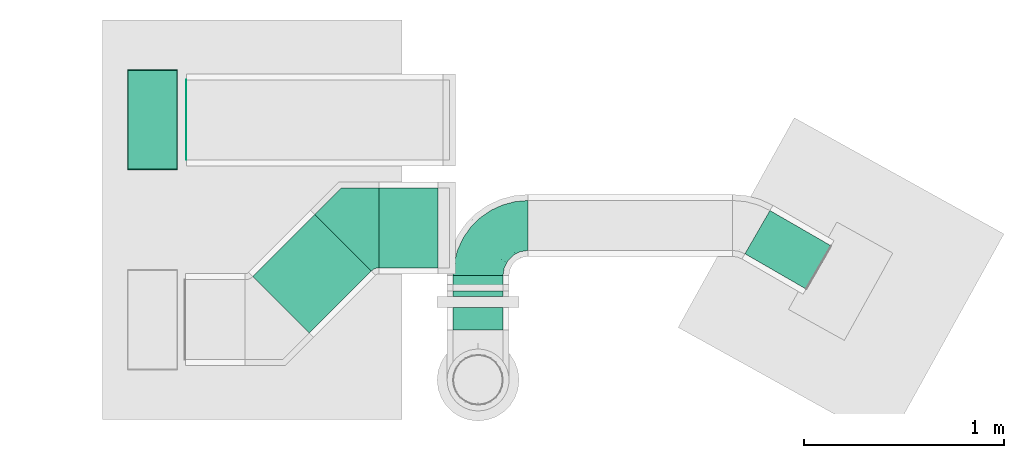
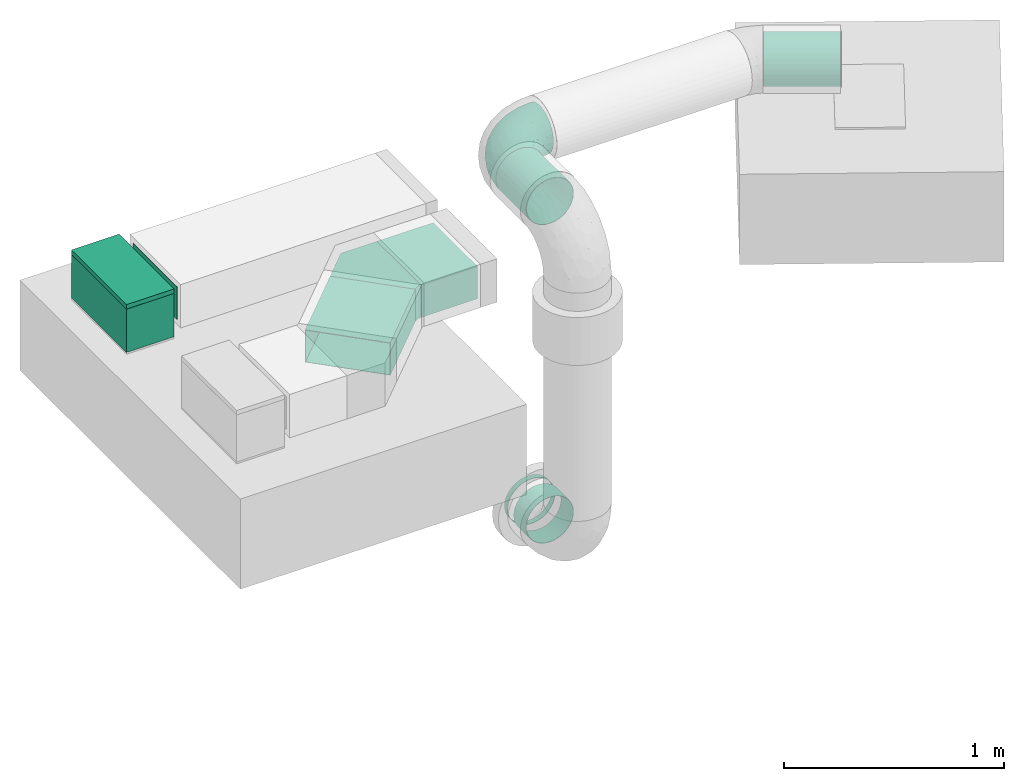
# One storey, part 5 of 9: 7 flow segments, 3 flow fittings, 1 flow terminal.
"""IFC2X3 building model written with IfcOpenShell, lengths in millimetres."""

from ifc_helpers import new_model, entity, si_unit, converted_unit, derived_unit, direction, frame, origin_with_axes, origin_2d_with_axis, place, context, subcontext, project, spatial, hollow_rectangle, hollow_circle, extrude, open_shell, surface_model, source, transform, mapped, type_object, element, save


model = new_model("IFC2X3")

# Units and contexts
model_context = context("Model", 3, precision=0.01, world=frame((0.0, 4.29681676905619e-09, 0.0)), true_north=direction((4.01073788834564e-13, 1.0)))
plan_context = context("Plan", 3, precision=0.01, world=frame((0.0, 4.29681676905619e-09, 0.0)), true_north=direction((4.01073788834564e-13, 1.0)))
body_context = subcontext(model_context, "Body", "Model", "MODEL_VIEW")
ifc_project = project(units=[converted_unit("PLANEANGLEUNIT", "DEGREE", entity("IfcPositiveLengthMeasure", 0.0174532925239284), si_unit("PLANEANGLEUNIT", "RADIAN"), dimensions=[0, 0, 0, 0, 0, 0, 0]), si_unit("AREAUNIT", "SQUARE_METRE"), si_unit("LENGTHUNIT", "METRE", prefix="MILLI"), si_unit("MASSUNIT", "GRAM", prefix="KILO"), si_unit("POWERUNIT", "WATT"), si_unit("PRESSUREUNIT", "PASCAL"), si_unit("FORCEUNIT", "NEWTON", prefix="KILO"), si_unit("ELECTRICVOLTAGEUNIT", "VOLT"), si_unit("ELECTRICCURRENTUNIT", "AMPERE"), si_unit("THERMODYNAMICTEMPERATUREUNIT", "DEGREE_CELSIUS"), si_unit("TIMEUNIT", "SECOND"), si_unit("VOLUMEUNIT", "CUBIC_METRE"), derived_unit("LINEARVELOCITYUNIT", [(si_unit("LENGTHUNIT", "METRE"), 1), (si_unit("TIMEUNIT", "SECOND"), -1)]), derived_unit("VOLUMETRICFLOWRATEUNIT", [(si_unit("VOLUMEUNIT", "CUBIC_METRE"), 1), (si_unit("TIMEUNIT", "SECOND"), -1)]), derived_unit("THERMALTRANSMITTANCEUNIT", [(si_unit("POWERUNIT", "WATT"), 1), (si_unit("THERMODYNAMICTEMPERATUREUNIT", "KELVIN"), -1), (si_unit("AREAUNIT", "SQUARE_METRE"), -1)]), derived_unit("SOUNDPRESSUREUNIT", [(si_unit("PRESSUREUNIT", "PASCAL"), 1)])], contexts=[model_context, plan_context])

# Site, building, storey
site_placement = place(None, frame((0.0, -4.29681676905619e-09, 0.0), z_axis=(0.0, 0.0, 1.0), x_axis=(1.0, 0.0, 0.0)))
site = spatial("IfcSite", under=ifc_project, at=site_placement, CompositionType="ELEMENT")
building_placement = place(site_placement, frame((0.0, 4.29681676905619e-09, 0.0), z_axis=(0.0, 0.0, 1.0), x_axis=(1.0, 0.0, 0.0)))
building = spatial("IfcBuilding", under=site, at=building_placement, Name="mc-building", CompositionType="ELEMENT")
storey_placement = place(building_placement, frame((0.0, 0.0, 210200.0), z_axis=(0.0, 0.0, 1.0), x_axis=(1.0, 0.0, 0.0)))
storey = spatial("IfcBuildingStorey", under=building, at=storey_placement, Name="Nivå F -0,7m", CompositionType="ELEMENT", Elevation=210200.0)

# Flow fittings
duct_fitting_type_1 = type_object("IfcDuctFittingType", Name="magicirc_elbow_full_radius_001", PredefinedType="BEND")
shared_shape_1 = source(origin_with_axes(), body_context, "Body", "SurfaceModel", [
    surface_model("IfcShellBasedSurfaceModel", [(-250.0, 0.0, -125.0), (-250.0, -88.38835, -88.38835), (-250.0, 32.35238, -120.74073), (-250.0, 62.5, -108.25318), (-250.0, 88.38835, -88.38835), (-250.0, 120.74073, -32.35238), (-250.0, 108.25318, -62.5), (-250.0, -62.5, -108.25318), (-250.0, -32.35238, -120.74073), (-250.0, -108.25318, -62.5), (-250.0, -120.74073, -32.35238), (-250.0, -125.0, 0.0), (-250.0, -88.38835, 88.38835), (-250.0, 120.74073, 32.35238), (-250.0, -62.5, 108.25318), (-250.0, 108.25318, 62.5), (-250.0, 62.5, 108.25318), (-250.0, 88.38835, 88.38835), (-250.0, 32.35238, 120.74073), (-250.0, -108.25318, 62.5), (-250.0, -120.74073, 32.35238), (-250.0, -32.35238, 120.74073), (-250.0, 0.0, 125.0), (-250.0, 125.0, 0.0), (-32.35238, 250.0, -120.74073), (88.38835, 250.0, -88.38835), (0.0, 250.0, -125.0), (-88.38835, 250.0, -88.38835), (-62.5, 250.0, -108.25318), (-108.25318, 250.0, -62.5), (-120.74073, 250.0, -32.35238), (32.35238, 250.0, -120.74073), (62.5, 250.0, -108.25318), (120.74073, 250.0, -32.35238), (108.25318, 250.0, -62.5), (125.0, 250.0, 0.0), (88.38835, 250.0, 88.38835), (62.5, 250.0, 108.25318), (-120.74073, 250.0, 32.35238), (-108.25318, 250.0, 62.5), (-62.5, 250.0, 108.25318), (-88.38835, 250.0, 88.38835), (-32.35238, 250.0, 120.74073), (120.74073, 250.0, 32.35238), (108.25318, 250.0, 62.5), (0.0, 250.0, 125.0), (32.35238, 250.0, 120.74073), (-125.0, 250.0, 0.0), (-210.86951, 73.07385, 104.36376), (-184.88194, -119.30291, 0.0), (-195.25827, -115.02308, 37.93413), (-218.90842, -122.27984, 0.0), (53.79635, 43.6295, 43.29829), (28.71982, 26.00799, 63.66662), (24.95926, 3.36677, 37.10772), (-143.32142, -83.48741, 74.82033), (-148.43956, -66.68827, 93.84246), (-193.81021, -79.4231, 92.40443), (-215.01547, -101.28826, 70.7859), (-170.24804, -98.61932, 63.57524), (15.48822, 139.1377, 119.17758), (51.95219, 181.65541, 109.88177), (21.43204, 199.18477, 122.23461), (-92.12122, -88.57213, 0.0), (-62.5, -74.75953, 0.0), (-102.19713, -88.25159, 37.84333), (114.99061, 194.89886, 37.86695), (105.10704, 146.7157, 35.60305), (110.84382, 153.31219, 0.0), (-35.72732, -56.0131, 0.0), (-19.33443, -42.66525, 24.1819), (-49.61048, -64.84865, 21.07887), (-134.49668, -18.50083, 117.62872), (-140.3114, 18.31287, 124.83908), (-163.87891, -5.14412, 123.50312), (-19.95522, 81.94859, 120.03225), (-25.80872, 122.13882, 124.73796), (-52.10962, 92.30678, 124.9631), (-31.05983, -5.99293, 89.90144), (-41.72797, 23.84412, 111.01725), (-81.01653, -19.40599, 104.87443), (-106.83954, -79.59981, 60.56422), (-146.98015, -105.1079, 35.84762), (-71.29451, -72.63164, 38.82328), (-73.06126, 220.06184, 103.19018), (-98.79093, 205.2116, 84.29848), (-75.91528, 182.06995, 107.88634), (-199.69686, 99.57099, 85.2884), (-203.49675, 11.2922, 124.81465), (-116.53306, 171.44239, 81.08815), (-111.87993, 90.36566, 118.79078), (-104.67411, 138.16705, 105.76412), (-145.96795, 109.49288, 99.87096), (-196.30432, -21.44057, 122.11502), (-215.51315, -51.86659, 112.81539), (-204.26429, 116.15735, 61.96761), (-171.07855, 119.2179, 78.533), (-181.86003, 134.49131, 46.84392), (-214.14919, 125.14691, 34.6495), (-134.49131, 181.86003, 46.84392), (-159.17408, 159.17408, 29.15352), (-152.46395, 152.46395, 55.37908), (-211.37287, 131.11793, 0.0), (-188.77781, 138.76885, 22.08599), (-176.52685, 148.87287, 0.0), (-90.84545, 14.70792, 120.26896), (-165.92299, 79.38605, 109.77065), (-194.42694, 43.85537, 119.55352), (38.35285, 111.1449, 103.53188), (67.56111, 151.47747, 93.91415), (101.2929, 214.32433, 70.67839), (-11.88244, 26.84905, 98.98258), (69.59743, 58.34132, 24.07272), (88.25159, 102.19715, 37.84335), (71.67798, 75.77581, 46.99643), (-84.05365, 84.19131, 124.04603), (-74.05474, 58.59216, 124.60033), (122.27984, 218.90842, 0.0), (-11.46722, -27.90939, 45.97099), (2.8419, -2.84189, 63.66452), (-36.75436, -35.39096, 65.83052), (79.49517, 196.80314, 92.78444), (59.14009, 215.57843, 109.07718), (-43.54002, 203.9777, 118.93211), (-3.74505, 217.94309, 124.98888), (47.42619, 250.0, 114.49695), (-11.6252, 186.58509, 124.95553), (-37.69004, 161.1507, 123.41409), (-148.87287, 176.52685, 0.0), (-138.76885, 188.77781, 22.08599), (-131.11793, 211.37287, 0.0), (-125.14691, 214.14919, 34.6495), (-84.38488, 127.39299, 117.02266), (-59.20815, 123.25028, 123.23304), (-63.59847, 155.77939, 118.03647), (56.0131, 35.72732, 0.0), (48.70082, 26.28379, 21.1922), (-116.19732, 204.24725, 61.91096), (9.4067, 98.99033, 114.49463), (79.67349, 106.95659, 60.52634), (-16.17619, 250.0, 122.87036), (82.93177, 142.04467, 75.00397), (-143.56269, 53.49001, 122.15523), (102.38473, 121.74244, 0.0), (88.57213, 92.12122, 0.0), (44.74763, 58.49273, 72.95926), (18.11496, 55.96411, 95.23773), (9.69309, 23.39724, 81.63831), (-67.51915, -39.60495, 84.29377), (98.46572, 169.05992, 63.37638), (-170.8102, -51.18183, 108.87038), (-153.31219, -110.84382, 0.0), (-123.62588, -42.04646, 104.74517), (-73.23164, -60.48705, 64.15546), (-139.54816, 139.54816, 82.62583), (-108.1391, 55.1991, 124.67421), (-60.03995, 38.39208, 120.18375), (65.18219, 107.64577, 80.24903), (43.4165, 83.93892, 89.61045), (-4.9115, 60.75686, 109.8509), (-110.21718, -65.96071, 80.65176), (-43.62951, -53.79636, 43.29829), (37.26667, 8.95465, 0.0), (14.15601, -14.15601, 0.0), (-8.95465, -37.26667, 0.0), (-121.74244, -102.38473, 0.0), (74.75953, 62.5, 0.0), (119.30291, 184.88194, 0.0), (-48.82206, -1.60827, -102.07682), (-81.15095, 5.22067, -115.678), (-46.7578, 29.40312, -114.58593), (-204.53459, 115.51747, -62.86787), (-214.14919, 125.14691, -34.6495), (-181.86003, 134.49131, -46.84392), (-14.61222, -31.35351, -44.43883), (11.84236, -11.84236, -33.95092), (-22.4719, -45.07054, -24.34392), (-223.1891, 97.50172, -81.04959), (-204.40195, 73.34241, -105.17442), (-205.98338, 43.52544, -118.79771), (-115.51747, 204.53457, -62.86787), (-123.49723, 170.45377, -74.23949), (-134.49131, 181.86003, -46.84392), (-183.06045, -52.02369, -110.01015), (-110.47452, -37.60202, -103.79083), (-151.64326, -67.35, -94.13381), (-188.77781, 138.76885, -22.08599), (-114.75143, 65.55471, -123.1751), (-107.82895, 32.74573, -124.62786), (-148.44163, 51.08373, -122.1244), (-159.17408, 159.17408, -29.15352), (-138.76885, 188.77781, -22.08599), (-119.19358, 124.76558, -104.29075), (-156.37688, 113.94777, -91.79313), (-139.54817, 139.54815, -82.62583), (-17.8555, 5.83155, -89.841), (-53.98544, -29.45541, -85.32833), (52.02369, 183.06045, -110.01015), (-194.89886, -114.99061, -37.86695), (68.13995, 56.13213, -24.5986), (53.12789, 44.54335, -46.08326), (71.63973, 76.43802, -47.84654), (-218.9084, -122.27984, 0.0), (-142.39083, -82.85696, -75.24042), (-197.12937, -79.50134, -92.82571), (-214.32433, -101.2929, -70.67839), (-187.89553, 11.55914, -124.94803), (-76.28398, -71.66476, -47.61611), (-102.35833, -88.16959, -38.28022), (-107.64683, -79.80589, -60.8013), (-55.74247, -67.93132, -24.47435), (-73.34242, 204.40195, -105.17441), (-199.49861, -21.42932, -122.24748), (-107.64576, -65.1822, -80.24902), (-0.34225, 0.34224, -70.72271), (29.30666, 54.05255, -85.49962), (16.15015, 142.42885, -119.37772), (43.11376, 128.52401, -105.34342), (14.39958, 85.87454, -108.99442), (-152.46395, 152.46393, -55.37908), (-125.14691, 214.14919, -34.6495), (-83.7122, 64.8786, -124.99462), (-54.88917, 96.03345, -124.99152), (-55.00537, 55.00536, -122.31604), (114.99061, 194.89886, -37.86695), (-97.50172, 223.1891, -81.04959), (-101.67989, 188.66846, -87.26306), (21.42932, 199.49861, -122.24748), (-11.55914, 187.89551, -124.94803), (-17.77846, 99.36444, -122.09337), (-43.52544, 205.98336, -118.79771), (-142.42885, -16.15015, -119.37772), (79.50134, 197.12936, -92.82571), (-188.66846, 101.67988, -87.26306), (-170.17192, 125.74792, -71.81093), (45.368, 22.81369, -24.20694), (101.2929, 214.32433, -70.67839), (105.10171, 146.67975, -35.58648), (88.16959, 102.35833, -38.28022), (79.96492, 108.09127, -60.85482), (-146.67975, -105.10171, -35.58648), (122.27984, 218.9084, 0.0), (98.46572, 169.0599, -63.37638), (-144.66282, 11.20212, -124.51517), (-87.43442, 152.97293, -109.2834), (67.3894, 152.70136, -94.37252), (-152.97295, 87.4344, -109.2834), (-102.45394, 113.88071, -114.88639), (-64.92037, 173.4251, -114.6928), (-51.08373, 148.44162, -122.1244), (-30.24824, 128.8738, -124.99659), (30.47164, 29.3995, -64.89969), (53.45139, 66.81998, -68.66115), (65.18219, 107.64576, -80.24903), (82.78793, 142.70732, -75.45609), (-67.10765, -53.67876, -68.59085), (-44.54336, -53.12789, -46.08326), (-169.05992, -98.46572, -63.37638), (-77.48047, 126.65809, -119.10822), (-111.62197, 155.40485, -94.01416), (-173.42512, 64.92037, -114.69279), (-93.45156, 93.45155, -121.68252), (31.52201, 14.63788, -44.14115), (-75.97227, -25.0209, -99.65574), (-18.30454, 63.16594, -115.56557), (-16.44961, 32.13712, -103.97124), (-29.64558, -30.50919, -65.101)], [open_shell([[[0, 1, 2]], [[3, 2, 4]], [[5, 6, 4]], [[1, 4, 2]], [[4, 1, 5]], [[7, 1, 8]], [[1, 0, 8]], [[9, 10, 1]], [[11, 1, 10]], [[11, 12, 1]], [[13, 5, 1]], [[1, 14, 13]], [[13, 14, 15]], [[16, 15, 14]], [[17, 15, 16]], [[16, 14, 18]], [[19, 12, 20]], [[20, 12, 11]], [[21, 22, 14]], [[12, 14, 1]], [[14, 22, 18]], [[23, 5, 13]], [[24, 25, 26]], [[27, 24, 28]], [[27, 29, 30]], [[24, 27, 25]], [[30, 25, 27]], [[31, 25, 32]], [[31, 26, 25]], [[25, 33, 34]], [[33, 25, 35]], [[25, 36, 35]], [[25, 30, 37]], [[30, 38, 37]], [[39, 37, 38]], [[37, 39, 40]], [[40, 39, 41]], [[42, 37, 40]], [[43, 36, 44]], [[35, 36, 43]], [[37, 45, 46]], [[25, 37, 36]], [[42, 45, 37]], [[30, 47, 38]], [[17, 16, 48]], [[49, 50, 51]], [[52, 53, 54]], [[55, 56, 57]], [[58, 50, 59]], [[60, 61, 62]], [[63, 64, 65]], [[66, 67, 68]], [[69, 70, 71]], [[72, 73, 74]], [[75, 76, 77]], [[12, 57, 14]], [[78, 79, 80]], [[81, 82, 65]], [[64, 83, 65]], [[84, 85, 86]], [[12, 19, 58]], [[12, 58, 57]], [[17, 48, 87]], [[22, 88, 18]], [[86, 85, 89]], [[90, 91, 92]], [[93, 21, 94]], [[95, 96, 97]], [[85, 41, 39]], [[15, 17, 87]], [[21, 93, 22]], [[23, 13, 98]], [[99, 100, 101]], [[91, 86, 89]], [[102, 103, 104]], [[80, 79, 105]], [[106, 48, 107]], [[107, 16, 18]], [[14, 94, 21]], [[61, 108, 109]], [[36, 110, 44]], [[79, 78, 111]], [[112, 113, 114]], [[84, 40, 41]], [[44, 66, 43]], [[115, 116, 77]], [[45, 62, 46]], [[66, 117, 43]], [[118, 119, 120]], [[37, 121, 36]], [[121, 37, 122]], [[123, 124, 42]], [[98, 97, 103]], [[66, 44, 110]], [[15, 87, 95]], [[122, 37, 125]], [[126, 127, 76]], [[128, 129, 130]], [[129, 131, 130]], [[128, 104, 100]], [[130, 131, 47]], [[132, 133, 134]], [[42, 40, 123]], [[99, 129, 100]], [[135, 112, 136]], [[126, 123, 127]], [[137, 38, 131]], [[138, 60, 76]], [[19, 20, 50]], [[101, 100, 97]], [[114, 113, 139]], [[124, 45, 140]], [[46, 62, 122]], [[103, 100, 104]], [[92, 96, 87]], [[119, 118, 54]], [[98, 95, 97]], [[141, 121, 109]], [[88, 22, 93]], [[142, 107, 73]], [[143, 113, 144]], [[145, 146, 147]], [[78, 148, 120]], [[81, 65, 83]], [[39, 38, 137]], [[85, 137, 89]], [[139, 67, 149]], [[121, 110, 36]], [[72, 93, 150]], [[88, 73, 107]], [[55, 59, 81]], [[94, 57, 150]], [[50, 20, 51]], [[50, 151, 82]], [[62, 45, 124]], [[60, 62, 126]], [[109, 121, 61]], [[110, 121, 149]], [[84, 123, 40]], [[127, 134, 133]], [[152, 72, 150]], [[105, 73, 72]], [[149, 67, 66]], [[149, 141, 139]], [[153, 81, 83]], [[82, 59, 50]], [[88, 93, 74]], [[107, 18, 88]], [[100, 129, 128]], [[131, 129, 99]], [[131, 99, 137]], [[131, 38, 47]], [[99, 101, 89]], [[39, 137, 85]], [[99, 89, 137]], [[89, 154, 91]], [[92, 154, 96]], [[91, 132, 134]], [[102, 23, 98]], [[100, 103, 97]], [[102, 98, 103]], [[95, 13, 15]], [[95, 98, 13]], [[96, 95, 87]], [[92, 87, 106]], [[96, 154, 101]], [[90, 92, 106]], [[91, 154, 92]], [[107, 142, 106]], [[105, 116, 155]], [[115, 155, 116]], [[116, 156, 75]], [[107, 48, 16]], [[87, 48, 106]], [[80, 105, 72]], [[156, 105, 79]], [[152, 150, 56]], [[148, 78, 80]], [[152, 148, 80]], [[145, 157, 158]], [[146, 111, 147]], [[108, 157, 109]], [[79, 111, 159]], [[76, 127, 133]], [[96, 101, 97]], [[89, 101, 154]], [[73, 105, 155]], [[90, 106, 142]], [[160, 153, 148]], [[148, 153, 120]], [[153, 160, 81]], [[120, 153, 161]], [[118, 120, 161]], [[78, 120, 119]], [[161, 70, 118]], [[162, 136, 54]], [[163, 70, 164]], [[70, 163, 54]], [[71, 70, 161]], [[151, 50, 49]], [[83, 71, 161]], [[69, 164, 70]], [[153, 83, 161]], [[65, 165, 63]], [[55, 81, 160]], [[82, 81, 59]], [[56, 55, 160]], [[57, 59, 55]], [[160, 148, 152]], [[57, 56, 150]], [[160, 152, 56]], [[80, 72, 152]], [[71, 64, 69]], [[134, 123, 86]], [[77, 76, 133]], [[138, 76, 75]], [[126, 76, 60]], [[123, 134, 127]], [[91, 134, 86]], [[91, 90, 132]], [[115, 132, 90]], [[133, 132, 115]], [[75, 77, 116]], [[133, 115, 77]], [[155, 90, 142]], [[90, 155, 115]], [[73, 155, 142]], [[108, 61, 60]], [[141, 109, 157]], [[138, 75, 159]], [[158, 146, 145]], [[139, 141, 157]], [[121, 141, 149]], [[145, 114, 139]], [[139, 113, 67]], [[145, 139, 157]], [[112, 114, 52]], [[136, 112, 52]], [[166, 144, 112]], [[54, 136, 52]], [[135, 166, 112]], [[136, 162, 135]], [[67, 143, 68]], [[65, 82, 165]], [[112, 144, 113]], [[68, 167, 66]], [[85, 84, 41]], [[123, 84, 86]], [[20, 11, 51]], [[117, 66, 167]], [[117, 35, 43]], [[66, 110, 149]], [[57, 94, 14]], [[93, 94, 150]], [[50, 58, 19]], [[57, 58, 59]], [[122, 62, 61]], [[46, 122, 125]], [[121, 122, 61]], [[124, 123, 126]], [[42, 124, 140]], [[62, 124, 126]], [[88, 74, 73]], [[93, 72, 74]], [[113, 143, 67]], [[64, 71, 83]], [[75, 156, 79]], [[116, 105, 156]], [[147, 78, 119]], [[159, 111, 146]], [[138, 146, 108]], [[79, 159, 75]], [[78, 147, 111]], [[147, 53, 145]], [[53, 147, 119]], [[114, 145, 52]], [[146, 138, 159]], [[108, 60, 138]], [[54, 53, 119]], [[52, 145, 53]], [[54, 118, 70]], [[163, 162, 54]], [[151, 165, 82]], [[157, 108, 158]], [[146, 158, 108]], [[168, 169, 170]], [[171, 172, 173]], [[174, 175, 176]], [[4, 177, 178]], [[179, 2, 3]], [[180, 181, 182]], [[102, 172, 23]], [[183, 184, 185]], [[104, 186, 102]], [[187, 188, 189]], [[190, 128, 191]], [[171, 5, 172]], [[192, 193, 194]], [[168, 195, 196]], [[197, 31, 32]], [[4, 6, 177]], [[198, 10, 9]], [[199, 200, 201]], [[198, 202, 10]], [[203, 204, 185]], [[205, 198, 9]], [[179, 3, 178]], [[7, 183, 204]], [[4, 178, 3]], [[206, 0, 2]], [[186, 172, 102]], [[207, 208, 209]], [[205, 9, 1]], [[210, 208, 207]], [[211, 27, 28]], [[212, 0, 206]], [[1, 7, 204]], [[213, 185, 184]], [[214, 195, 215]], [[128, 190, 104]], [[216, 217, 218]], [[173, 190, 219]], [[176, 69, 210]], [[30, 220, 47]], [[221, 222, 223]], [[34, 33, 224]], [[220, 180, 182]], [[29, 27, 225]], [[226, 225, 211]], [[26, 227, 228]], [[228, 24, 26]], [[0, 212, 8]], [[31, 227, 26]], [[216, 218, 229]], [[211, 28, 230]], [[8, 183, 7]], [[212, 231, 183]], [[232, 197, 32]], [[233, 171, 234]], [[235, 200, 199]], [[175, 164, 176]], [[199, 144, 166]], [[169, 188, 223]], [[236, 25, 34]], [[228, 227, 216]], [[237, 238, 239]], [[198, 240, 151]], [[241, 167, 224]], [[236, 224, 242]], [[243, 189, 188]], [[220, 182, 191]], [[244, 226, 211]], [[197, 245, 217]], [[226, 181, 180]], [[246, 192, 247]], [[248, 230, 249]], [[130, 191, 128]], [[32, 25, 232]], [[250, 216, 229]], [[219, 190, 182]], [[186, 190, 173]], [[251, 215, 252]], [[253, 254, 239]], [[165, 208, 63]], [[207, 255, 256]], [[209, 240, 257]], [[33, 35, 241]], [[224, 33, 241]], [[224, 68, 237]], [[28, 24, 230]], [[244, 211, 248]], [[246, 178, 233]], [[179, 189, 206]], [[244, 248, 258]], [[244, 192, 259]], [[222, 229, 223]], [[189, 260, 246]], [[193, 233, 234]], [[187, 246, 261]], [[231, 212, 206]], [[183, 8, 212]], [[185, 204, 183]], [[205, 204, 257]], [[31, 197, 227]], [[216, 227, 197]], [[236, 232, 25]], [[245, 254, 253]], [[252, 239, 201]], [[237, 242, 224]], [[257, 240, 198]], [[257, 203, 209]], [[24, 228, 230]], [[249, 230, 228]], [[179, 178, 260]], [[206, 2, 179]], [[190, 186, 104]], [[172, 186, 173]], [[234, 171, 173]], [[172, 5, 23]], [[177, 171, 233]], [[5, 171, 6]], [[130, 47, 220]], [[190, 191, 182]], [[130, 220, 191]], [[180, 30, 29]], [[30, 180, 220]], [[225, 180, 29]], [[210, 69, 64]], [[214, 251, 262]], [[219, 234, 173]], [[234, 194, 193]], [[259, 194, 181]], [[246, 233, 193]], [[244, 258, 247]], [[246, 193, 192]], [[259, 181, 226]], [[181, 194, 219]], [[244, 259, 226]], [[194, 259, 192]], [[181, 219, 182]], [[234, 219, 194]], [[184, 183, 231]], [[203, 185, 213]], [[169, 184, 231]], [[213, 184, 263]], [[231, 206, 243]], [[169, 223, 170]], [[264, 218, 265]], [[217, 215, 218]], [[169, 168, 263]], [[196, 266, 255]], [[243, 169, 231]], [[221, 187, 261]], [[209, 203, 213]], [[204, 203, 257]], [[196, 195, 266]], [[209, 208, 240]], [[255, 209, 213]], [[210, 207, 256]], [[209, 255, 207]], [[213, 196, 255]], [[210, 256, 176]], [[64, 63, 210]], [[174, 214, 175]], [[256, 255, 266]], [[174, 176, 256]], [[175, 162, 163]], [[256, 266, 174]], [[214, 174, 266]], [[176, 164, 69]], [[218, 215, 265]], [[252, 201, 200]], [[265, 170, 264]], [[216, 197, 217]], [[188, 221, 223]], [[229, 222, 250]], [[258, 222, 261]], [[250, 222, 249]], [[245, 197, 232]], [[215, 217, 253]], [[254, 232, 242]], [[253, 217, 245]], [[232, 254, 245]], [[242, 237, 239]], [[242, 239, 254]], [[201, 239, 238]], [[238, 143, 144]], [[251, 252, 200]], [[215, 253, 252]], [[239, 252, 253]], [[238, 199, 201]], [[199, 135, 235]], [[262, 200, 235]], [[215, 251, 214]], [[264, 223, 229]], [[262, 235, 175]], [[214, 262, 175]], [[251, 200, 262]], [[135, 199, 166]], [[135, 162, 235]], [[261, 222, 221]], [[188, 187, 221]], [[246, 187, 189]], [[249, 228, 250]], [[216, 250, 228]], [[240, 165, 151]], [[238, 237, 143]], [[210, 63, 208]], [[151, 49, 198]], [[202, 198, 49]], [[202, 11, 10]], [[204, 205, 1]], [[198, 205, 257]], [[224, 236, 34]], [[232, 236, 242]], [[211, 225, 27]], [[180, 225, 226]], [[171, 177, 6]], [[178, 177, 233]], [[230, 248, 211]], [[258, 248, 249]], [[222, 258, 249]], [[247, 258, 261]], [[246, 247, 261]], [[244, 247, 192]], [[179, 260, 189]], [[178, 246, 260]], [[144, 199, 238]], [[208, 165, 240]], [[162, 175, 235]], [[163, 164, 175]], [[168, 170, 265]], [[195, 168, 265]], [[168, 196, 263]], [[223, 264, 170]], [[218, 264, 229]], [[215, 195, 265]], [[195, 214, 266]], [[189, 243, 206]], [[169, 243, 188]], [[68, 224, 167]], [[68, 143, 237]], [[213, 263, 196]], [[169, 263, 184]]])]),
])
flow_fitting_1_placement = place(storey_placement, frame((524180.93348, 456435.47356, 3920.0), z_axis=(0.0, 0.0, 1.0), x_axis=(-1.0, 0.0, 0.0)))
element("IfcFlowFitting", 1, at=flow_fitting_1_placement, inside=storey, type_object=duct_fitting_type_1, Name="magicirc_elbow_full_radius_001", context=body_context, shape_type="MappedRepresentation", body=[
    mapped(shared_shape_1, transform((0.0, 0.0, 0.0), scale=1.0)),
])
duct_fitting_type_2 = type_object("IfcDuctFittingType", Name="magirect_plug1_001", PredefinedType="OBSTRUCTION")
shared_shape_2 = source(origin_with_axes(), body_context, "Body", "SurfaceModel", [
    surface_model("IfcShellBasedSurfaceModel", [(0.0, 250.0, 125.0), (0.0, 250.0, -125.0), (0.0, -250.0, -125.0), (0.0, -250.0, 125.0), (25.0, -250.0, -125.0), (25.0, 250.0, -125.0), (25.0, 250.0, 125.0), (25.0, -250.0, 125.0)], [open_shell([[[0, 1, 2]], [[2, 3, 0]], [[4, 5, 6]], [[6, 7, 4]], [[1, 0, 5]], [[6, 5, 0]], [[2, 1, 5]], [[5, 4, 2]], [[3, 2, 7]], [[4, 7, 2]], [[0, 3, 6]], [[7, 6, 3]]])]),
])
flow_fitting_2_placement = place(storey_placement, frame((522551.03369, 456964.29801, 3449.51542000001), z_axis=(-1.0, 0.0, 0.0), x_axis=(0.0, 0.0, 1.0)))
element("IfcFlowFitting", 2, at=flow_fitting_2_placement, inside=storey, type_object=duct_fitting_type_2, Name="magirect_plug1_001", context=body_context, shape_type="MappedRepresentation", body=[
    mapped(shared_shape_2, transform((0.0, 0.0, 0.0), scale=1.0)),
])
duct_fitting_type_3 = type_object("IfcDuctFittingType", Name="WA", PredefinedType="BEND")
shared_shape_3 = source(origin_with_axes(), body_context, "Body", "SurfaceModel", [
    surface_model("IfcShellBasedSurfaceModel", [(-68.19805, 214.64466, 90.0), (-78.55339, 206.69874, 90.0), (214.64466, -68.19805, 90.0), (-67.13739, 215.70533, 90.0), (-90.61244, 201.70371, 90.0), (82.84271, -200.0, 90.0), (-105.05339, -200.0, 90.0), (-103.55339, 200.0, 90.0), (-105.05339, 200.0, 90.0), (215.70533, -67.13739, 90.0), (82.84271, -200.0, -90.0), (-105.05339, -200.0, -90.0), (-90.61244, 201.70371, -90.0), (-103.55339, 200.0, -90.0), (-105.05339, 200.0, -90.0), (-78.55339, 206.69874, -90.0), (214.64466, -68.19805, -90.0), (-67.13739, 215.70533, -90.0), (215.70533, -67.13739, -90.0), (-68.19805, 214.64466, -90.0)], [open_shell([[[0, 1, 2]], [[3, 0, 2]], [[4, 5, 1]], [[6, 5, 4]], [[6, 7, 8]], [[9, 3, 2]], [[2, 1, 5]], [[7, 6, 4]], [[10, 11, 12]], [[13, 11, 14]], [[15, 16, 10]], [[17, 18, 16]], [[13, 12, 11]], [[19, 17, 16]], [[15, 19, 16]], [[12, 15, 10]], [[15, 1, 0]], [[0, 19, 15]], [[15, 12, 1]], [[13, 7, 4]], [[4, 12, 13]], [[1, 12, 4]], [[8, 7, 13]], [[13, 14, 8]], [[6, 8, 14]], [[14, 11, 6]], [[5, 6, 11]], [[11, 10, 5]], [[2, 5, 16]], [[10, 16, 5]], [[9, 2, 18]], [[16, 18, 2]], [[3, 9, 18]], [[18, 17, 3]], [[0, 3, 19]], [[17, 19, 3]]])]),
])
flow_fitting_3_placement = place(storey_placement, frame((523579.42104, 456423.18324, 3350.0), z_axis=(0.0, 0.0, 1.0), x_axis=(-1.0, 0.0, 0.0)))
element("IfcFlowFitting", 3, at=flow_fitting_3_placement, inside=storey, type_object=duct_fitting_type_3, Name="WA", context=body_context, shape_type="MappedRepresentation", body=[
    mapped(shared_shape_3, transform((0.0, 0.0, 0.0), scale=1.0)),
])

# Flow segments
duct_segment_type_1 = type_object("IfcDuctSegmentType", Name="Rectangular duct", PredefinedType="RIGIDSEGMENT")
shared_shape_4 = source(origin_with_axes(), body_context, "Body", "SweptSolid", [
    extrude(hollow_rectangle(XDim=400.0, YDim=180.0, WallThickness=2.0, at=origin_2d_with_axis()), frame((0.0, 0.0, 0.0), z_axis=(1.0, 0.0, 0.0), x_axis=(0.0, 1.0, 0.0)), (0.0, 0.0, 1.0), 296.5),
])
flow_segment_1_placement = place(storey_placement, frame((523684.47443, 456423.18324, 3350.0), z_axis=(0.0, 0.0, 1.0), x_axis=(1.0, 0.0, 0.0)))
element("IfcFlowSegment", 4, at=flow_segment_1_placement, inside=storey, type_object=duct_segment_type_1, Name="Rectangular duct", context=body_context, shape_type="MappedRepresentation", body=[
    mapped(shared_shape_4, transform((0.0, 0.0, 0.0), scale=1.0)),
])
duct_segment_type_2 = type_object("IfcDuctSegmentType", Name="KK002T - Rektangulære, Forsinket stål", PredefinedType="RIGIDSEGMENT")
shared_shape_5 = source(origin_with_axes(), body_context, "Body", "SweptSolid", [
    extrude(hollow_rectangle(XDim=400.0, YDim=180.0, WallThickness=2.0, at=origin_2d_with_axis()), frame((0.0, 0.0, 0.0), z_axis=(1.0, 0.0, 0.0), x_axis=(0.0, 1.0, 0.0)), (0.0, 0.0, 1.0), 439.3),
])
flow_segment_2_placement = place(storey_placement, frame((523505.13707, 456348.89928, 3350.0), z_axis=(0.0, 0.0, 1.0), x_axis=(-0.707106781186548, -0.707106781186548, 0.0)))
element("IfcFlowSegment", 5, at=flow_segment_2_placement, inside=storey, type_object=duct_segment_type_2, Name="KK002T - Rektangulære, Forsinket stål", context=body_context, shape_type="MappedRepresentation", body=[
    mapped(shared_shape_5, transform((0.0, 0.0, 0.0), scale=1.0)),
])
duct_segment_type_3 = type_object("IfcDuctSegmentType", Name="KK001T - Spiro kanaler, Forsinket stål", PredefinedType="RIGIDSEGMENT")
shared_shape_6 = source(origin_with_axes(), body_context, "Body", "SweptSolid", [
    extrude(hollow_circle(Radius=125.0, WallThickness=2.0, at=origin_2d_with_axis()), frame((0.0, 0.0, 0.0), z_axis=(1.0, 0.0, 0.0), x_axis=(0.0, 1.0, 0.0)), (0.0, 0.0, 1.0), 273.5),
])
flow_segment_3_placement = place(storey_placement, frame((524180.93348, 456185.47356, 3920.0), z_axis=(0.0, 0.0, 1.0), x_axis=(0.0, -1.0, 0.0)))
element("IfcFlowSegment", 6, at=flow_segment_3_placement, inside=storey, type_object=duct_segment_type_3, Name="KK001T - Spiro kanaler, Forsinket stål", context=body_context, shape_type="MappedRepresentation", body=[
    mapped(shared_shape_6, transform((0.0, 0.0, 0.0), scale=1.0)),
])
shared_shape_7 = source(origin_with_axes(), body_context, "Body", "SweptSolid", [
    extrude(hollow_circle(Radius=125.0, WallThickness=2.0, at=origin_2d_with_axis()), frame((0.0, 0.0, 0.0), z_axis=(1.0, 0.0, 0.0), x_axis=(0.0, 1.0, 0.0)), (0.0, 0.0, 1.0), 28.5),
])
flow_segment_4_placement = place(storey_placement, frame((524180.93348, 456108.17026, 2156.11027999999), z_axis=(0.0, 0.0, 1.0), x_axis=(0.0, -1.0, 0.0)))
element("IfcFlowSegment", 7, at=flow_segment_4_placement, inside=storey, type_object=duct_segment_type_3, Name="KK001T - Spiro kanaler, Forsinket stål", context=body_context, shape_type="MappedRepresentation", body=[
    mapped(shared_shape_7, transform((0.0, 0.0, 0.0), scale=1.0)),
])
shared_shape_8 = source(origin_with_axes(), body_context, "Body", "SweptSolid", [
    extrude(hollow_circle(Radius=125.0, WallThickness=2.0, at=origin_2d_with_axis()), frame((0.0, 0.0, 0.0), z_axis=(1.0, 0.0, 0.0), x_axis=(0.0, 1.0, 0.0)), (0.0, 0.0, 1.0), 353.0),
])
flow_segment_5_placement = place(storey_placement, frame((525579.33256, 456401.97991, 3920.0), z_axis=(0.0, 0.0, 1.0), x_axis=(0.866025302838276, -0.500000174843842, 0.0)))
element("IfcFlowSegment", 8, at=flow_segment_5_placement, inside=storey, type_object=duct_segment_type_3, Name="KK001T - Spiro kanaler, Forsinket stål", context=body_context, shape_type="MappedRepresentation", body=[
    mapped(shared_shape_8, transform((0.0, 0.0, 0.0), scale=1.0)),
])
shared_shape_9 = source(origin_with_axes(), body_context, "Body", "SweptSolid", [
    extrude(hollow_circle(Radius=125.0, WallThickness=2.0, at=origin_2d_with_axis()), frame((0.0, 0.0, 0.0), z_axis=(1.0, 0.0, 0.0), x_axis=(0.0, 1.0, 0.0)), (0.0, 0.0, 1.0), 112.7),
])
flow_segment_6_placement = place(storey_placement, frame((524180.93348, 456024.64055, 2156.11027999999), z_axis=(0.0, 0.0, 1.0), x_axis=(0.0, -1.0, 0.0)))
element("IfcFlowSegment", 9, at=flow_segment_6_placement, inside=storey, type_object=duct_segment_type_3, Name="KK001T - Spiro kanaler, Forsinket stål", context=body_context, shape_type="MappedRepresentation", body=[
    mapped(shared_shape_9, transform((0.0, 0.0, 0.0), scale=1.0)),
])
duct_segment_type_4 = type_object("IfcDuctSegmentType", Name="Rektangulær kanal", PredefinedType="RIGIDSEGMENT")
shared_shape_10 = source(origin_with_axes(), body_context, "Body", "SweptSolid", [
    extrude(hollow_rectangle(XDim=500.0, YDim=250.0, WallThickness=2.0, at=origin_2d_with_axis()), frame((0.0, 0.0, 0.0), z_axis=(1.0, 0.0, 0.0), x_axis=(0.0, 1.0, 0.0)), (0.0, 0.0, 1.0), 240.0),
])
flow_segment_7_placement = place(storey_placement, frame((522551.03369, 456964.29801, 3209.51542000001), z_axis=(-1.0, 0.0, 0.0), x_axis=(0.0, 0.0, 1.0)))
element("IfcFlowSegment", 10, at=flow_segment_7_placement, inside=storey, type_object=duct_segment_type_4, Name="Rektangulær kanal", context=body_context, shape_type="MappedRepresentation", body=[
    mapped(shared_shape_10, transform((0.0, 0.0, 0.0), scale=1.0)),
])

# Flow terminal
shared_shape_11 = source(origin_with_axes(), body_context, "Body", "SurfaceModel", [
    surface_model("IfcShellBasedSurfaceModel", [(2.0, 200.0, 90.0), (2.0, -200.0, 90.0), (2.0, 200.0, -90.0), (2.0, -200.0, -90.0), (0.0, 200.0, -90.0), (0.0, -200.0, -90.0), (0.0, 200.0, 90.0), (0.0, -200.0, 90.0)], [open_shell([[[0, 1, 2]], [[3, 2, 1]], [[4, 5, 6]], [[7, 6, 5]], [[3, 1, 7]], [[7, 5, 3]], [[2, 3, 5]], [[5, 4, 2]], [[0, 2, 4]], [[4, 6, 0]], [[1, 0, 6]], [[6, 7, 1]]])]),
])
flow_terminal_placement = place(storey_placement, frame((522720.93348, 456964.0, 3350.0), z_axis=(0.0, 0.0, 1.0), x_axis=(-1.0, 0.0, 0.0)))
element("IfcFlowTerminal", 11, at=flow_terminal_placement, inside=storey, Name="MC_ConnectionNode_Return_Air_Rectangular", context=body_context, shape_type="MappedRepresentation", body=[
    mapped(shared_shape_11, transform((0.0, 0.0, 0.0), scale=1.0)),
])

save(model, "model.ifc")
